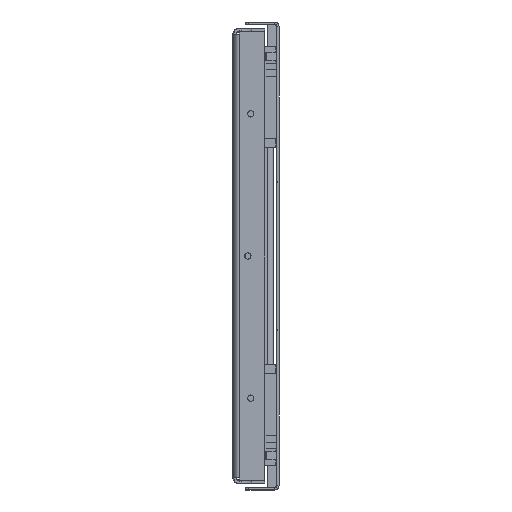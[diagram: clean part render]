
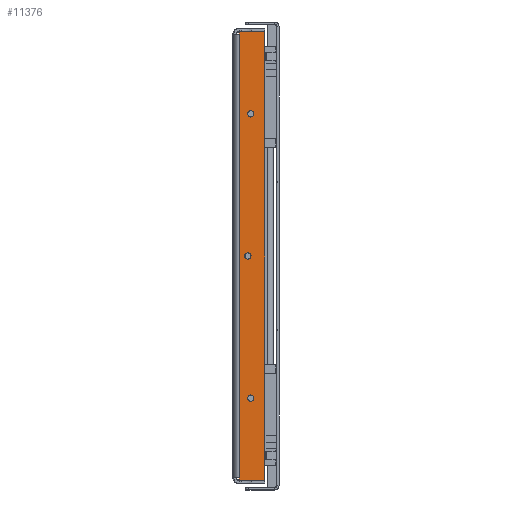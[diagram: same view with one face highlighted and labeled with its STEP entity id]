
A CAD part, left-side view. The second image highlights one B-rep face of the part: STEP entity #11376.
In plain terms, the highlighted planar face has unit normal (-1, -0.001, 0).
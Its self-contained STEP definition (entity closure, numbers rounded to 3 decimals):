
#549=PLANE('',#12758);
#1432=LINE('',#21301,#2428);
#1440=LINE('',#21323,#2436);
#1443=LINE('',#21327,#2439);
#1448=LINE('',#21338,#2444);
#1450=LINE('',#21342,#2446);
#1452=LINE('',#21345,#2448);
#2428=VECTOR('',#15812,780.);
#2436=VECTOR('',#15828,45.);
#2439=VECTOR('',#15833,4.8);
#2444=VECTOR('',#15848,4.8);
#2446=VECTOR('',#15852,45.);
#2448=VECTOR('',#15856,789.6);
#2744=FACE_BOUND('',#4016,.T.);
#2745=FACE_BOUND('',#4017,.T.);
#2746=FACE_BOUND('',#4018,.T.);
#3268=FACE_OUTER_BOUND('',#4015,.T.);
#4015=EDGE_LOOP('',(#9896,#9897,#9898,#9899,#9900,#9901));
#4016=EDGE_LOOP('',(#9902));
#4017=EDGE_LOOP('',(#9903));
#4018=EDGE_LOOP('',(#9904));
#4437=CIRCLE('',#12337,5.5);
#4441=CIRCLE('',#12343,5.5);
#4445=CIRCLE('',#12349,5.5);
#5230=VERTEX_POINT('',#20121);
#5234=VERTEX_POINT('',#20131);
#5238=VERTEX_POINT('',#20141);
#5627=VERTEX_POINT('',#21299);
#5628=VERTEX_POINT('',#21300);
#5637=VERTEX_POINT('',#21321);
#5638=VERTEX_POINT('',#21322);
#5639=VERTEX_POINT('',#21337);
#5640=VERTEX_POINT('',#21341);
#6533=EDGE_CURVE('',#5230,#5230,#4437,.T.);
#6537=EDGE_CURVE('',#5234,#5234,#4441,.T.);
#6541=EDGE_CURVE('',#5238,#5238,#4445,.T.);
#7114=EDGE_CURVE('',#5627,#5628,#1432,.T.);
#7124=EDGE_CURVE('',#5637,#5638,#1440,.T.);
#7127=EDGE_CURVE('',#5638,#5628,#1443,.T.);
#7134=EDGE_CURVE('',#5627,#5639,#1448,.T.);
#7136=EDGE_CURVE('',#5639,#5640,#1450,.T.);
#7138=EDGE_CURVE('',#5640,#5637,#1452,.T.);
#9896=ORIENTED_EDGE('',*,*,#7114,.T.);
#9897=ORIENTED_EDGE('',*,*,#7127,.F.);
#9898=ORIENTED_EDGE('',*,*,#7124,.F.);
#9899=ORIENTED_EDGE('',*,*,#7138,.F.);
#9900=ORIENTED_EDGE('',*,*,#7136,.F.);
#9901=ORIENTED_EDGE('',*,*,#7134,.F.);
#9902=ORIENTED_EDGE('',*,*,#6533,.T.);
#9903=ORIENTED_EDGE('',*,*,#6537,.T.);
#9904=ORIENTED_EDGE('',*,*,#6541,.T.);
#11376=ADVANCED_FACE('',(#3268,#2744,#2745,#2746),#549,.F.);
#12337=AXIS2_PLACEMENT_3D('',#20122,#14622,#14623);
#12343=AXIS2_PLACEMENT_3D('',#20132,#14634,#14635);
#12349=AXIS2_PLACEMENT_3D('',#20142,#14646,#14647);
#12758=AXIS2_PLACEMENT_3D('',#21346,#15857,#15858);
#14622=DIRECTION('center_axis',(1.,0.,0.));
#14623=DIRECTION('ref_axis',(0.,0.,
-1.));
#14634=DIRECTION('center_axis',(1.,0.,0.));
#14635=DIRECTION('ref_axis',(0.,0.,
-1.));
#14646=DIRECTION('center_axis',(1.,0.,0.));
#14647=DIRECTION('ref_axis',(0.,0.,
-1.));
#15812=DIRECTION('',(0.,-1.,0.));
#15828=DIRECTION('',(0.,0.,-1.));
#15833=DIRECTION('',(0.,1.,0.));
#15848=DIRECTION('',(0.,1.,0.));
#15852=DIRECTION('',(0.,0.,1.));
#15856=DIRECTION('',(0.,-1.,0.));
#15857=DIRECTION('center_axis',(1.,0.,0.));
#15858=DIRECTION('ref_axis',(0.,0.,-1.));
#20121=CARTESIAN_POINT('',(-750.,-250.,35.5));
#20122=CARTESIAN_POINT('Origin',(-750.,-250.,30.));
#20131=CARTESIAN_POINT('',(-750.,0.,30.5));
#20132=CARTESIAN_POINT('Origin',(-750.,0.,25.));
#20141=CARTESIAN_POINT('',(-750.,250.,35.5));
#20142=CARTESIAN_POINT('Origin',(-750.,250.,30.));
#21299=CARTESIAN_POINT('',(-750.,390.,10.));
#21300=CARTESIAN_POINT('',(-750.,-390.,10.));
#21301=CARTESIAN_POINT('',(-750.,0.,10.));
#21321=CARTESIAN_POINT('',(-750.,-394.8,55.));
#21322=CARTESIAN_POINT('',(-750.,-394.8,10.));
#21323=CARTESIAN_POINT('',(-750.,-394.8,10.));
#21327=CARTESIAN_POINT('',(-750.,-390.,10.));
#21337=CARTESIAN_POINT('',(-750.,394.8,10.));
#21338=CARTESIAN_POINT('',(-750.,390.,10.));
#21341=CARTESIAN_POINT('',(-750.,394.8,55.));
#21342=CARTESIAN_POINT('',(-750.,394.8,10.));
#21345=CARTESIAN_POINT('',(-750.,394.8,55.));
#21346=CARTESIAN_POINT('Origin',(-750.,0.,27.453));
